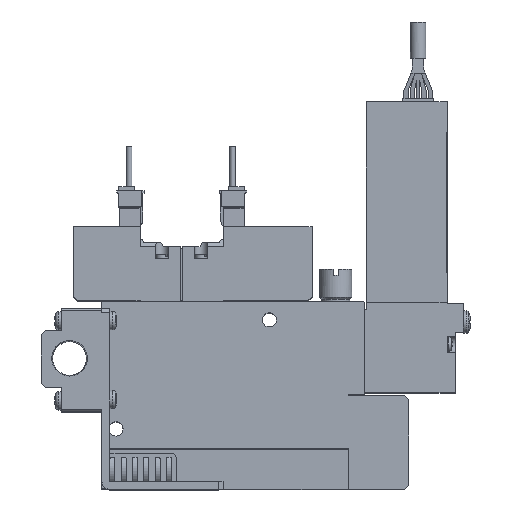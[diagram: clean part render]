
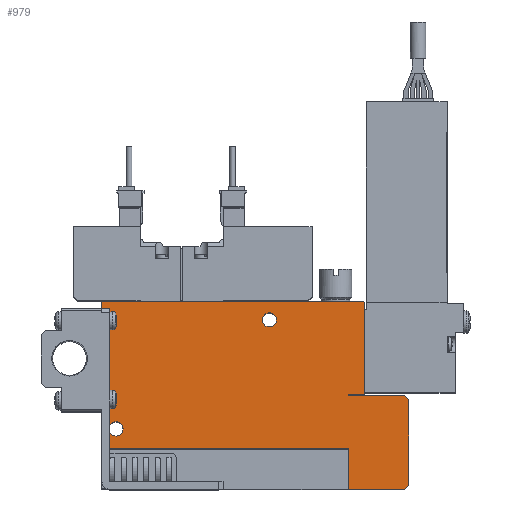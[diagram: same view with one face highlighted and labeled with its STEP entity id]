
A CAD part, top view. The second image highlights one B-rep face of the part: STEP entity #979.
In plain terms, the highlighted planar face has unit normal (0, 0, 1).
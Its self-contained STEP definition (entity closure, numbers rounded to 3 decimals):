
#979=ADVANCED_FACE('',(#2282,#2283,#2284),#2285,.F.);
#2282=FACE_OUTER_BOUND('',#4011,.T.);
#2283=FACE_BOUND('',#4012,.T.);
#2284=FACE_BOUND('',#4013,.T.);
#2285=PLANE('',#4014);
#4011=EDGE_LOOP('',(#8647,#8648,#8649,#8650,#8651,#8652,#8653,#8654,#8655,#8656,#8657,#8658,#8659,#8660));
#4012=EDGE_LOOP('',(#8661));
#4013=EDGE_LOOP('',(#8662));
#4014=AXIS2_PLACEMENT_3D('',#8663,#8664,#8665);
#8647=ORIENTED_EDGE('',*,*,#12029,.T.);
#8648=ORIENTED_EDGE('',*,*,#12035,.F.);
#8649=ORIENTED_EDGE('',*,*,#12026,.F.);
#8650=ORIENTED_EDGE('',*,*,#11899,.T.);
#8651=ORIENTED_EDGE('',*,*,#12010,.T.);
#8652=ORIENTED_EDGE('',*,*,#11832,.T.);
#8653=ORIENTED_EDGE('',*,*,#11795,.T.);
#8654=ORIENTED_EDGE('',*,*,#11931,.T.);
#8655=ORIENTED_EDGE('',*,*,#12031,.T.);
#8656=ORIENTED_EDGE('',*,*,#11983,.T.);
#8657=ORIENTED_EDGE('',*,*,#12003,.T.);
#8658=ORIENTED_EDGE('',*,*,#12034,.T.);
#8659=ORIENTED_EDGE('',*,*,#11935,.T.);
#8660=ORIENTED_EDGE('',*,*,#11684,.T.);
#8661=ORIENTED_EDGE('',*,*,#11907,.F.);
#8662=ORIENTED_EDGE('',*,*,#11793,.F.);
#8663=CARTESIAN_POINT('',(0.0,0.0,5.0));
#8664=DIRECTION('',(0.0,0.0,-1.0));
#8665=DIRECTION('',(0.0,-1.0,0.0));
#11684=EDGE_CURVE('',#14196,#14194,#14197,.T.);
#11793=EDGE_CURVE('',#14400,#14400,#14401,.T.);
#11795=EDGE_CURVE('',#14404,#14402,#14405,.T.);
#11832=EDGE_CURVE('',#14470,#14404,#14471,.T.);
#11899=EDGE_CURVE('',#14579,#14581,#14583,.T.);
#11907=EDGE_CURVE('',#14595,#14595,#14596,.T.);
#11931=EDGE_CURVE('',#14402,#14633,#14635,.T.);
#11935=EDGE_CURVE('',#14641,#14196,#14642,.T.);
#11983=EDGE_CURVE('',#14708,#14706,#14709,.T.);
#12003=EDGE_CURVE('',#14706,#14734,#14736,.T.);
#12010=EDGE_CURVE('',#14581,#14470,#14744,.T.);
#12026=EDGE_CURVE('',#14579,#14764,#14765,.T.);
#12029=EDGE_CURVE('',#14194,#14767,#14769,.T.);
#12031=EDGE_CURVE('',#14633,#14708,#14771,.T.);
#12034=EDGE_CURVE('',#14734,#14641,#14774,.T.);
#12035=EDGE_CURVE('',#14764,#14767,#14775,.T.);
#14194=VERTEX_POINT('',#18358);
#14196=VERTEX_POINT('',#18361);
#14197=LINE('',#18362,#18363);
#14400=VERTEX_POINT('',#18714);
#14401=CIRCLE('',#18715,1.75);
#14402=VERTEX_POINT('',#18716);
#14404=VERTEX_POINT('',#18719);
#14405=LINE('',#18720,#18721);
#14470=VERTEX_POINT('',#18844);
#14471=LINE('',#18845,#18846);
#14579=VERTEX_POINT('',#19019);
#14581=VERTEX_POINT('',#19022);
#14583=LINE('',#19025,#19026);
#14595=VERTEX_POINT('',#19044);
#14596=CIRCLE('',#19045,1.75);
#14633=VERTEX_POINT('',#19114);
#14635=LINE('',#19117,#19118);
#14641=VERTEX_POINT('',#19126);
#14642=LINE('',#19127,#19128);
#14706=VERTEX_POINT('',#19233);
#14708=VERTEX_POINT('',#19236);
#14709=LINE('',#19237,#19238);
#14734=VERTEX_POINT('',#19279);
#14736=LINE('',#19282,#19283);
#14744=LINE('',#19297,#19298);
#14764=VERTEX_POINT('',#19356);
#14765=LINE('',#19357,#19358);
#14767=VERTEX_POINT('',#19361);
#14769=LINE('',#19364,#19365);
#14771=LINE('',#19368,#19369);
#14774=LINE('',#19374,#19375);
#14775=LINE('',#19376,#19377);
#18358=CARTESIAN_POINT('',(0.0,46.4,5.0));
#18361=CARTESIAN_POINT('',(0.2,46.6,5.0));
#18362=CARTESIAN_POINT('',(0.2,46.6,5.0));
#18363=VECTOR('',#22930,1.0);
#18714=CARTESIAN_POINT('',(43.25,42.0,5.0));
#18715=AXIS2_PLACEMENT_3D('',#23087,#23088,#23089);
#18716=CARTESIAN_POINT('',(75.0,23.25,5.0));
#18719=CARTESIAN_POINT('',(76.0,22.25,5.0));
#18720=CARTESIAN_POINT('',(76.0,22.25,5.0));
#18721=VECTOR('',#23091,1.0);
#18844=CARTESIAN_POINT('',(76.0,1.0,5.0));
#18845=CARTESIAN_POINT('',(76.0,1.0,5.0));
#18846=VECTOR('',#23131,1.0);
#19019=CARTESIAN_POINT('',(61.1,0.0,5.0));
#19022=CARTESIAN_POINT('',(75.0,0.0,5.0));
#19025=CARTESIAN_POINT('',(0.0,0.0,5.0));
#19026=VECTOR('',#23230,1.0);
#19044=CARTESIAN_POINT('',(5.25,15.0,5.0));
#19045=AXIS2_PLACEMENT_3D('',#23240,#23241,#23242);
#19114=CARTESIAN_POINT('',(61.0,23.25,5.0));
#19117=CARTESIAN_POINT('',(75.0,23.25,5.0));
#19118=VECTOR('',#23278,1.0);
#19126=CARTESIAN_POINT('',(64.8,46.6,5.0));
#19127=CARTESIAN_POINT('',(64.8,46.6,5.0));
#19128=VECTOR('',#23284,1.0);
#19233=CARTESIAN_POINT('',(65.0,23.5,5.0));
#19236=CARTESIAN_POINT('',(61.0,23.5,5.0));
#19237=CARTESIAN_POINT('',(61.0,23.5,5.0));
#19238=VECTOR('',#23342,1.0);
#19279=CARTESIAN_POINT('',(65.0,46.4,5.0));
#19282=CARTESIAN_POINT('',(65.0,23.5,5.0));
#19283=VECTOR('',#23366,1.0);
#19297=CARTESIAN_POINT('',(75.0,0.0,5.0));
#19298=VECTOR('',#23373,1.0);
#19356=CARTESIAN_POINT('',(61.1,10.1,5.0));
#19357=CARTESIAN_POINT('',(61.1,0.0,5.0));
#19358=VECTOR('',#23390,1.0);
#19361=CARTESIAN_POINT('',(0.0,10.1,5.0));
#19364=CARTESIAN_POINT('',(0.0,46.4,5.0));
#19365=VECTOR('',#23393,1.0);
#19368=CARTESIAN_POINT('',(61.0,23.25,5.0));
#19369=VECTOR('',#23395,1.0);
#19374=CARTESIAN_POINT('',(65.0,46.4,5.0));
#19375=VECTOR('',#23398,1.0);
#19376=CARTESIAN_POINT('',(61.1,10.1,5.0));
#19377=VECTOR('',#23399,1.0);
#22930=DIRECTION('',(-0.707,-0.707,0.0));
#23087=CARTESIAN_POINT('',(41.5,42.0,5.0));
#23088=DIRECTION('',(0.0,0.0,1.0));
#23089=DIRECTION('',(1.0,0.0,0.0));
#23091=DIRECTION('',(-0.707,0.707,0.0));
#23131=DIRECTION('',(0.0,1.0,0.0));
#23230=DIRECTION('',(1.0,0.0,0.0));
#23240=CARTESIAN_POINT('',(3.5,15.0,5.0));
#23241=DIRECTION('',(0.0,0.0,1.0));
#23242=DIRECTION('',(1.0,0.0,0.0));
#23278=DIRECTION('',(-1.0,0.0,0.0));
#23284=DIRECTION('',(-1.0,0.0,0.0));
#23342=DIRECTION('',(1.0,0.,0.0));
#23366=DIRECTION('',(0.0,1.0,0.0));
#23373=DIRECTION('',(0.707,0.707,0.0));
#23390=DIRECTION('',(0.0,1.0,0.0));
#23393=DIRECTION('',(0.0,-1.0,0.0));
#23395=DIRECTION('',(0.0,1.0,0.0));
#23398=DIRECTION('',(-0.707,0.707,0.0));
#23399=DIRECTION('',(-1.0,0.0,0.0));
